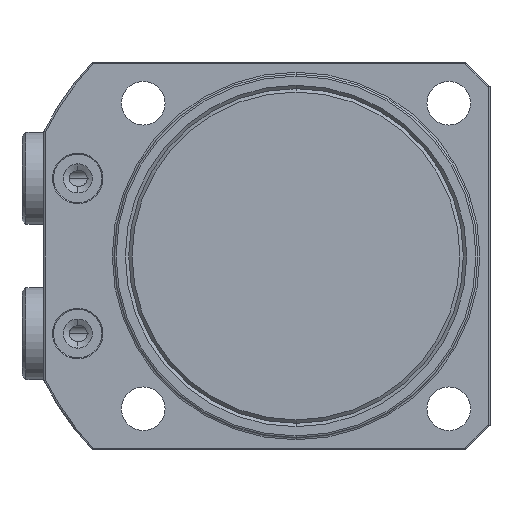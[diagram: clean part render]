
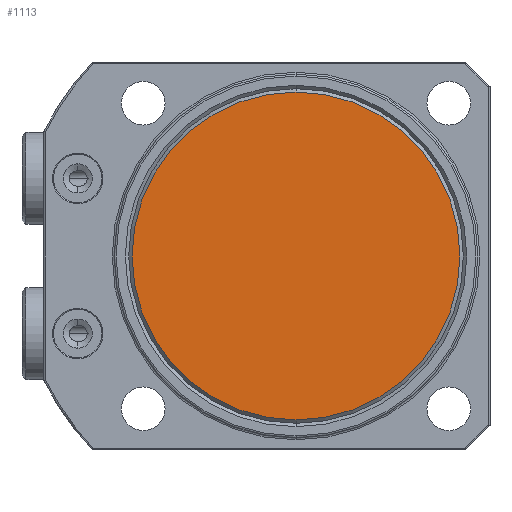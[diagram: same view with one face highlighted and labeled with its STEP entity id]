
A CAD part, front view. The second image highlights one B-rep face of the part: STEP entity #1113.
In plain terms, the highlighted planar face has unit normal (0, -1, 0) as drawn and (1, 0, 0) by its records, which use the part's own axes.
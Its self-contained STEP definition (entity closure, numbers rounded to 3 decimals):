
#737=PLANE('',#4310);
#1113=ADVANCED_FACE('',(#1354),#737,.T.);
#1354=FACE_OUTER_BOUND('',#1582,.T.);
#1582=EDGE_LOOP('',(#2499,#2500));
#2499=ORIENTED_EDGE('',*,*,#3434,.F.);
#2500=ORIENTED_EDGE('',*,*,#3631,.F.);
#3119=VERTEX_POINT('',#5630);
#3120=VERTEX_POINT('',#5631);
#3434=EDGE_CURVE('',#3119,#3120,#3929,.T.);
#3631=EDGE_CURVE('',#3120,#3119,#4016,.T.);
#3929=CIRCLE('',#4141,33.8);
#4016=CIRCLE('',#4307,33.8);
#4141=AXIS2_PLACEMENT_3D('',#5629,#4590,#4591);
#4307=AXIS2_PLACEMENT_3D('',#6400,#4994,#4995);
#4310=AXIS2_PLACEMENT_3D('',#6403,#5000,#5001);
#4590=DIRECTION('',(-1.,0.,0.));
#4591=DIRECTION('',(0.,0.,1.));
#4994=DIRECTION('',(-1.,0.,0.));
#4995=DIRECTION('',(0.,0.,1.));
#5000=DIRECTION('',(1.,0.,0.));
#5001=DIRECTION('',(0.,0.,1.));
#5629=CARTESIAN_POINT('',(71.,0.,0.));
#5630=CARTESIAN_POINT('',(71.,0.,33.8));
#5631=CARTESIAN_POINT('',(71.,0.,-33.8));
#6400=CARTESIAN_POINT('',(71.,0.,0.));
#6403=CARTESIAN_POINT('',(71.,0.,0.));
